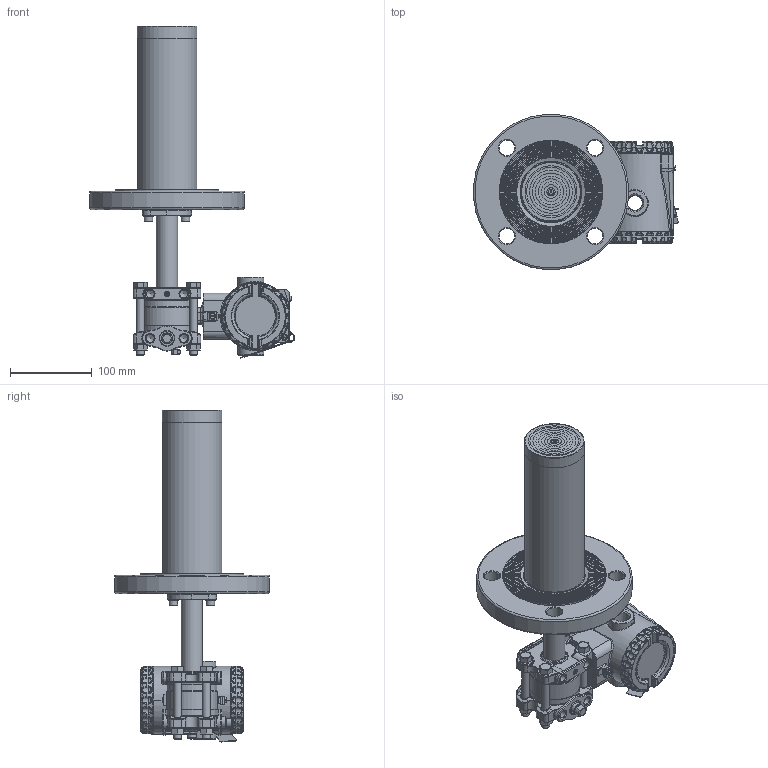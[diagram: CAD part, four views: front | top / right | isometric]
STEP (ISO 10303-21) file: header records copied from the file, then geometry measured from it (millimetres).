
FILE_DESCRIPTION(/* description */ (''),/* implementation_level */ '2;1');
FILE_NAME(/* name */ 'F:\Area\Desenvolvimento_2\Projects\Sensor\projetos\LD400-3d\dimensionais 3D clientes\LD400L\LD400L 3-150 RF ext 200 ref 1-4NPT purga acima.stp',/* time_stamp */ '2023-02-23T16:09:27-03:00',/* author */ ('inventor02'),/* organization */ (''),/* preprocessor_version */ 'ST-DEVELOPER v17',/* originating_system */ 'Autodesk Inventor 2019',/* authorisation */ '');
FILE_SCHEMA (('CONFIG_CONTROL_DESIGN'));
Products named in the file (41): LD30XL 3-150 RF ext 200 ref 1-4NPT purga acima; 204-0301-L-3 150 RF ext 200 purga acima; nivel fx3 com baixa diferencial 1-4NPT purga acima; involucro fx0-3 apos a usinagem final; flange diferencial std purga; 101-C-7484-01 flange selo nivel VR; 201-A-0504-tubo união teste 1; bujao 1-4NPT; Sangria; Porca 3-8 x 16 UNC; Paraf. 3-8 x 16 UNC; adaptação tubo x flanges 1-1-2 a 4pol; 101-B-0161-anel cortado do tubo - teste1; 101-B-0162-flange fixação tubo; ANSI B18.3.1M - M6x1 x 16; DIN 127 - A 6; flange 3 150 ext 200; 101-C-0111-14; 096-B-0199-14; 101-B-7701-02 ext 3-200; Carcaça 400 com tampas e plaqueta sem letras; 101-D-0845-05 carcaça LD400 sem letras; 101-B-3614-03-tampa 400 sem letras; Tampa visor 400 montada sem letras; 101-B-3612-05 tampa visor 400 sem letras; 101-A-6107; oring 2034; 00034775-0; WHW_250; DIN 915 - M6 x 10; Chapa aterramento externo; 201-A-1771-02 inserto terra recartilhado; AS 1969 - ST4,2; ISO 1207 - M4 x 8; ANSI B18.3.1M - M4x0,7 x 8; Subconjunto plaqueta 400; plaqueta 400 em branco; Parafuso da Plaqueta; Rebite da Plaqueta; 096-A-0169-03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
Assembly tree (50 placements, depth 4):
  LD30XL 3-150 RF ext 200 ref 1-4NPT purga acima
    204-0301-L-3 150 RF ext 200 purga acima
      nivel fx3 com baixa diferencial 1-4NPT purga acima
        involucro fx0-3 apos a usinagem final
        flange diferencial std purga
        101-C-7484-01 flange selo nivel VR
        201-A-0504-tubo união teste 1
        DIN 915 - M6 x 10
        bujao 1-4NPT
        Sangria
        Porca 3-8 x 16 UNC  x4
        Paraf. 3-8 x 16 UNC  x4
      adaptação tubo x flanges 1-1-2 a 4pol
        101-B-0161-anel cortado do tubo - teste1
        101-B-0162-flange fixação tubo
        ANSI B18.3.1M - M6x1 x 16  x2
        DIN 127 - A 6  x2
      flange 3 150 ext 200
        101-C-0111-14
        096-B-0199-14
        101-B-7701-02 ext 3-200
    Carcaça 400 com tampas e plaqueta sem letras
      101-D-0845-05 carcaça LD400 sem letras
      101-B-3614-03-tampa 400 sem letras
      Tampa visor 400 montada sem letras
        101-B-3612-05 tampa visor 400 sem letras
        101-A-6107
        oring 2034
        00034775-0
        WHW_250
      DIN 915 - M6 x 10
      Chapa aterramento externo
      201-A-1771-02 inserto terra recartilhado
      AS 1969 - ST4,2
      ISO 1207 - M4 x 8
      ANSI B18.3.1M - M4x0,7 x 8  x2
      Subconjunto plaqueta 400
        plaqueta 400 em branco
        Parafuso da Plaqueta
        Rebite da Plaqueta
        096-A-0169-03
        101-A-0502-01
Bounding box: 250.39 x 189.28 x 405.72 mm (x, y, z)
Volume: 1429161.3 mm3; surface area: 429058.6 mm2
Topology: 43 solids, 43 shells, 2796 faces, 6762 edges, 4065 vertices
Faces by surface type: plane 739, cylinder 664, bspline 605, torus 490, cone 222, sphere 76
Full cylindrical faces by diameter (mm): 2 x4, 2.1 x1, 2.2 x1, 2.459 x3, 2.5 x1, 2.7 x1, 2.8 x1, 3 x4, 3.242 x3, 3.5 x1, 3.571 x1, 4 x5, 4.3 x2, 4.4 x1, 4.917 x4, 5 x1, 5.5 x3, 6 x6, 6.1 x2, 6.2 x1, 6.647 x1, 7 x5, 7.6 x2, 7.798 x4, 8 x1, 9.525 x4, 9.728 x6, 10 x2, 10.5 x8, 10.719 x2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
Entity records: 99436 total; most frequent: CARTESIAN_POINT 37211, DIRECTION 12858, ORIENTED_EDGE 12764, EDGE_CURVE 6382, AXIS2_PLACEMENT_3D 5518, VERTEX_POINT 3871, CIRCLE 3210, EDGE_LOOP 2849
